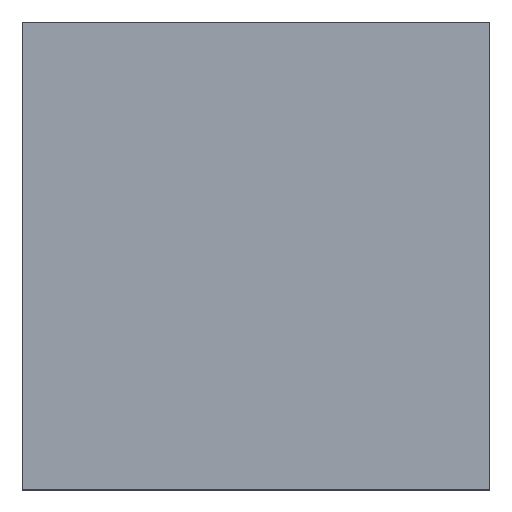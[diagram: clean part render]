
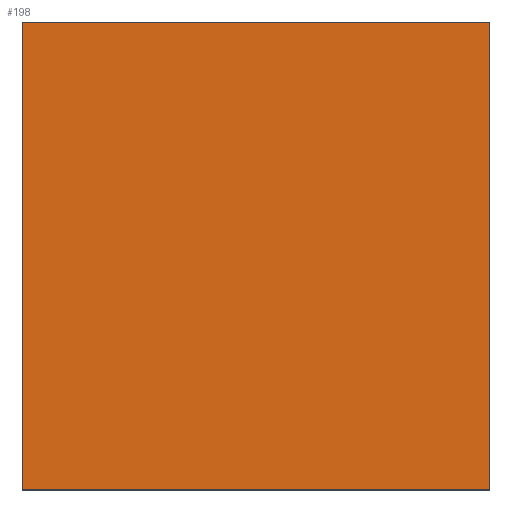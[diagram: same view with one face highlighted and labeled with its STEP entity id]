
A CAD part, top view. The second image highlights one B-rep face of the part: STEP entity #198.
In plain terms, the highlighted planar face has unit normal (0, 0, 1).
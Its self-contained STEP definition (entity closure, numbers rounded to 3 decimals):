
#62=CARTESIAN_POINT('Vertex',(500.,520.,10.)) ;
#76=CARTESIAN_POINT('Vertex',(-480.,520.,10.)) ;
#79=CARTESIAN_POINT('Line Origine',(10.,520.,10.)) ;
#107=CARTESIAN_POINT('Vertex',(-480.,-460.,10.)) ;
#110=CARTESIAN_POINT('Line Origine',(-480.,30.,10.)) ;
#138=CARTESIAN_POINT('Vertex',(500.,-460.,10.)) ;
#141=CARTESIAN_POINT('Line Origine',(10.,-460.,10.)) ;
#163=CARTESIAN_POINT('Line Origine',(500.,30.,10.)) ;
#187=CARTESIAN_POINT('Axis2P3D Location',(0.,0.,10.)) ;
#80=DIRECTION('Vector Direction',(1.,0.,0.)) ;
#111=DIRECTION('Vector Direction',(0.,-1.,0.)) ;
#142=DIRECTION('Vector Direction',(-1.,0.,0.)) ;
#164=DIRECTION('Vector Direction',(0.,-1.,0.)) ;
#188=DIRECTION('Axis2P3D Direction',(0.,0.,1.)) ;
#189=DIRECTION('Axis2P3D XDirection',(1.,0.,0.)) ;
#190=AXIS2_PLACEMENT_3D('Plane Axis2P3D',#187,#188,#189) ;
#193=ORIENTED_EDGE('',*,*,#83,.T.) ;
#194=ORIENTED_EDGE('',*,*,#114,.T.) ;
#195=ORIENTED_EDGE('',*,*,#145,.T.) ;
#196=ORIENTED_EDGE('',*,*,#167,.T.) ;
#81=VECTOR('Line Direction',#80,1.) ;
#112=VECTOR('Line Direction',#111,1.) ;
#143=VECTOR('Line Direction',#142,1.) ;
#165=VECTOR('Line Direction',#164,1.) ;
#198=ADVANCED_FACE('PartBody',(#197),#191,.T.) ;
#83=EDGE_CURVE('',#63,#77,#82,.F.) ;
#114=EDGE_CURVE('',#77,#108,#113,.T.) ;
#145=EDGE_CURVE('',#108,#139,#144,.F.) ;
#167=EDGE_CURVE('',#139,#63,#166,.F.) ;
#192=EDGE_LOOP('',(#193,#194,#195,#196)) ;
#197=FACE_OUTER_BOUND('',#192,.T.) ;
#82=LINE('Line',#79,#81) ;
#113=LINE('Line',#110,#112) ;
#144=LINE('Line',#141,#143) ;
#166=LINE('Line',#163,#165) ;
#191=PLANE('',#190) ;
#63=VERTEX_POINT('',#62) ;
#77=VERTEX_POINT('',#76) ;
#108=VERTEX_POINT('',#107) ;
#139=VERTEX_POINT('',#138) ;
